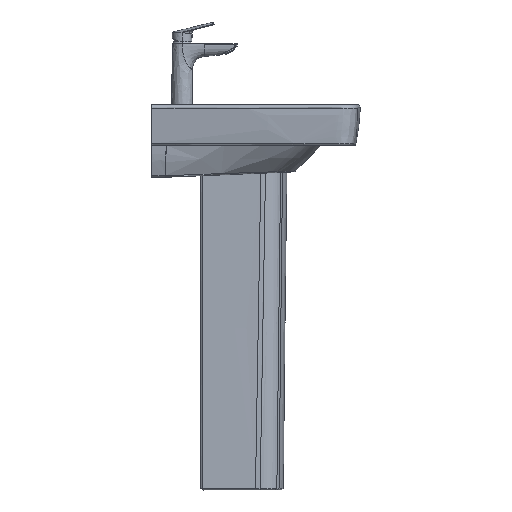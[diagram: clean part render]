
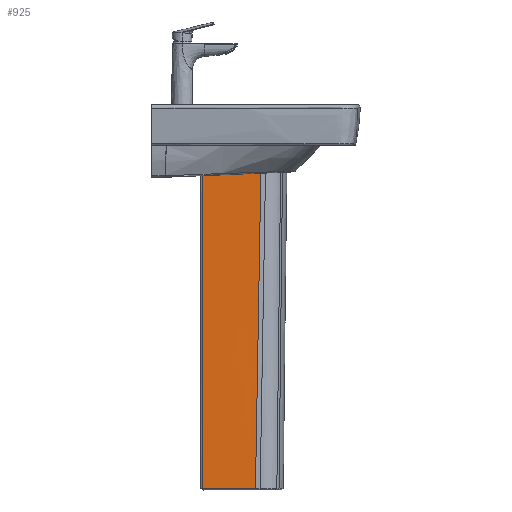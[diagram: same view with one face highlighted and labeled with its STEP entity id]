
A CAD part, left-side view. The second image highlights one B-rep face of the part: STEP entity #925.
In plain terms, the highlighted free-form (B-spline) face has degree [5, 5] with [9, 6] control points.
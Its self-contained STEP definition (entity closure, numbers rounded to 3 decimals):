
#287=B_SPLINE_SURFACE_WITH_KNOTS('',5,5,((#106246,#106247,#106248,#106249,
#106250,#106251),(#106252,#106253,#106254,#106255,#106256,#106257),(#106258,
#106259,#106260,#106261,#106262,#106263),(#106264,#106265,#106266,#106267,
#106268,#106269),(#106270,#106271,#106272,#106273,#106274,#106275),(#106276,
#106277,#106278,#106279,#106280,#106281),(#106282,#106283,#106284,#106285,
#106286,#106287),(#106288,#106289,#106290,#106291,#106292,#106293),(#106294,
#106295,#106296,#106297,#106298,#106299)),.UNSPECIFIED.,.F.,.F.,.F.,(6,
3,6),(6,6),(3.014,357.581,712.461),(-53.369,
76.24),.UNSPECIFIED.);
#925=ADVANCED_FACE('',(#1517),#287,.T.);
#1517=FACE_OUTER_BOUND('',#2137,.T.);
#2137=EDGE_LOOP('',(#4800,#4801,#4802,#4803));
#4800=ORIENTED_EDGE('',*,*,#6288,.T.);
#4801=ORIENTED_EDGE('',*,*,#6289,.F.);
#4802=ORIENTED_EDGE('',*,*,#6287,.T.);
#4803=ORIENTED_EDGE('',*,*,#6367,.T.);
#6287=EDGE_CURVE('',#8563,#8597,#7395,.T.);
#6288=EDGE_CURVE('',#8599,#8564,#7396,.T.);
#6289=EDGE_CURVE('',#8563,#8564,#7397,.T.);
#6367=EDGE_CURVE('',#8597,#8599,#7462,.T.);
#7395=B_SPLINE_CURVE_WITH_KNOTS('',5,(#108735,#108736,#108737,#108738,#108739,
#108740,#108741,#108742,#108743),.UNSPECIFIED.,.F.,.F.,(6,3,6),(-235.829,
-121.908,-56.39),.UNSPECIFIED.);
#7396=B_SPLINE_CURVE_WITH_KNOTS('',3,(#108744,#108745,#108746,#108747),
 .UNSPECIFIED.,.F.,.F.,(4,4),(0.,11.761),
 .UNSPECIFIED.);
#7397=B_SPLINE_CURVE_WITH_KNOTS('',5,(#108748,#108749,#108750,#108751,#108752,
#108753,#108754,#108755,#108756),.UNSPECIFIED.,.F.,.F.,(6,3,6),(3.014,
357.581,712.461),.UNSPECIFIED.);
#7462=B_SPLINE_CURVE_WITH_KNOTS('',3,(#109321,#109322,#109323,#109324,#109325,
#109326,#109327,#109328,#109329,#109330,#109331,#109332,#109333,#109334,
#109335,#109336,#109337,#109338),.UNSPECIFIED.,.F.,.F.,(4,2,2,2,2,2,2,2,
4),(204.347,329.724,455.101,580.479,705.856,
831.233,956.611,1081.988,1207.365),
 .UNSPECIFIED.);
#8563=VERTEX_POINT('',#107747);
#8564=VERTEX_POINT('',#107748);
#8597=VERTEX_POINT('',#107781);
#8599=VERTEX_POINT('',#107783);
#106246=CARTESIAN_POINT('',(-93.781,118.786,286.69));
#106247=CARTESIAN_POINT('',(-93.417,92.852,286.69));
#106248=CARTESIAN_POINT('',(-93.048,66.918,286.69));
#106249=CARTESIAN_POINT('',(-92.678,40.985,286.69));
#106250=CARTESIAN_POINT('',(-92.308,15.051,286.69));
#106251=CARTESIAN_POINT('',(-91.941,-10.883,286.69));
#106252=CARTESIAN_POINT('',(-93.288,119.974,215.791));
#106253=CARTESIAN_POINT('',(-93.058,94.04,215.79));
#106254=CARTESIAN_POINT('',(-92.714,68.107,215.79));
#106255=CARTESIAN_POINT('',(-92.32,42.174,215.792));
#106256=CARTESIAN_POINT('',(-91.941,16.241,215.793));
#106257=CARTESIAN_POINT('',(-91.641,-9.692,215.793));
#106258=CARTESIAN_POINT('',(-92.955,121.169,144.889));
#106259=CARTESIAN_POINT('',(-92.953,95.239,144.885));
#106260=CARTESIAN_POINT('',(-92.667,69.311,144.884));
#106261=CARTESIAN_POINT('',(-92.229,43.383,144.885));
#106262=CARTESIAN_POINT('',(-91.769,17.455,144.886));
#106263=CARTESIAN_POINT('',(-91.418,-8.475,144.885));
#106264=CARTESIAN_POINT('',(-91.686,122.363,73.998));
#106265=CARTESIAN_POINT('',(-91.325,96.439,73.999));
#106266=CARTESIAN_POINT('',(-90.786,70.517,74.003));
#106267=CARTESIAN_POINT('',(-90.209,44.596,74.009));
#106268=CARTESIAN_POINT('',(-89.734,18.674,74.013));
#106269=CARTESIAN_POINT('',(-89.501,-7.251,74.015));
#106270=CARTESIAN_POINT('',(-90.459,124.75,-67.863));
#106271=CARTESIAN_POINT('',(-90.214,98.833,-67.864));
#106272=CARTESIAN_POINT('',(-89.631,72.921,-67.861));
#106273=CARTESIAN_POINT('',(-88.912,47.011,-67.856));
#106274=CARTESIAN_POINT('',(-88.263,21.099,-67.852));
#106275=CARTESIAN_POINT('',(-87.889,-4.817,-67.851));
#106276=CARTESIAN_POINT('',(-88.647,127.138,-209.717));
#106277=CARTESIAN_POINT('',(-88.201,101.228,-209.716));
#106278=CARTESIAN_POINT('',(-87.505,75.324,-209.712));
#106279=CARTESIAN_POINT('',(-86.733,49.421,-209.707));
#106280=CARTESIAN_POINT('',(-86.055,23.518,-209.702));
#106281=CARTESIAN_POINT('',(-85.645,-2.39,-209.7));
#106282=CARTESIAN_POINT('',(-88.412,128.33,-280.684));
#106283=CARTESIAN_POINT('',(-88.304,102.422,-280.687));
#106284=CARTESIAN_POINT('',(-87.822,76.518,-280.689));
#106285=CARTESIAN_POINT('',(-87.139,50.616,-280.688));
#106286=CARTESIAN_POINT('',(-86.425,24.714,-280.687));
#106287=CARTESIAN_POINT('',(-85.852,-1.192,-280.688));
#106288=CARTESIAN_POINT('',(-87.266,129.522,-351.639));
#106289=CARTESIAN_POINT('',(-86.948,103.613,-351.64));
#106290=CARTESIAN_POINT('',(-86.445,77.708,-351.64));
#106291=CARTESIAN_POINT('',(-85.853,51.805,-351.638));
#106292=CARTESIAN_POINT('',(-85.269,25.902,-351.637));
#106293=CARTESIAN_POINT('',(-84.79,-0.003,-351.637));
#106294=CARTESIAN_POINT('',(-86.325,130.717,-422.597));
#106295=CARTESIAN_POINT('',(-85.957,104.811,-422.597));
#106296=CARTESIAN_POINT('',(-85.583,78.905,-422.597));
#106297=CARTESIAN_POINT('',(-85.206,52.999,-422.597));
#106298=CARTESIAN_POINT('',(-84.829,27.093,-422.597));
#106299=CARTESIAN_POINT('',(-84.456,1.187,-422.596));
#107747=CARTESIAN_POINT('',(-91.941,-10.883,286.69));
#107748=CARTESIAN_POINT('',(-84.456,1.187,-422.596));
#107781=CARTESIAN_POINT('',(-93.781,118.786,286.682));
#107783=CARTESIAN_POINT('',(-86.155,118.777,-422.597));
#108735=CARTESIAN_POINT('',(-91.941,-10.883,286.69));
#108736=CARTESIAN_POINT('',(-92.169,5.231,286.689));
#108737=CARTESIAN_POINT('',(-92.398,21.344,286.688));
#108738=CARTESIAN_POINT('',(-92.635,37.946,286.688));
#108739=CARTESIAN_POINT('',(-92.997,63.327,286.688));
#108740=CARTESIAN_POINT('',(-93.357,88.708,286.687));
#108741=CARTESIAN_POINT('',(-93.497,98.596,286.686));
#108742=CARTESIAN_POINT('',(-93.64,108.723,286.684));
#108743=CARTESIAN_POINT('',(-93.781,118.786,286.682));
#108744=CARTESIAN_POINT('',(-86.155,118.777,-422.597));
#108745=CARTESIAN_POINT('',(-85.596,79.58,-422.597));
#108746=CARTESIAN_POINT('',(-85.02,40.384,-422.596));
#108747=CARTESIAN_POINT('',(-84.456,1.187,-422.596));
#108748=CARTESIAN_POINT('',(-91.941,-10.883,286.69));
#108749=CARTESIAN_POINT('',(-91.641,-9.692,215.793));
#108750=CARTESIAN_POINT('',(-91.418,-8.475,144.884));
#108751=CARTESIAN_POINT('',(-89.501,-7.251,74.015));
#108752=CARTESIAN_POINT('',(-87.889,-4.817,-67.851));
#108753=CARTESIAN_POINT('',(-85.645,-2.39,-209.7));
#108754=CARTESIAN_POINT('',(-85.852,-1.192,-280.688));
#108755=CARTESIAN_POINT('',(-84.79,-0.003,-351.637));
#108756=CARTESIAN_POINT('',(-84.456,1.187,-422.596));
#109321=CARTESIAN_POINT('',(-93.781,118.786,286.682));
#109322=CARTESIAN_POINT('',(-93.569,118.792,257.137));
#109323=CARTESIAN_POINT('',(-93.379,118.799,227.589));
#109324=CARTESIAN_POINT('',(-92.877,118.804,168.493));
#109325=CARTESIAN_POINT('',(-92.57,118.802,138.946));
#109326=CARTESIAN_POINT('',(-91.896,118.795,79.854));
#109327=CARTESIAN_POINT('',(-91.537,118.79,50.3));
#109328=CARTESIAN_POINT('',(-90.862,118.784,-8.934));
#109329=CARTESIAN_POINT('',(-90.556,118.783,-38.558));
#109330=CARTESIAN_POINT('',(-89.905,118.779,-97.573));
#109331=CARTESIAN_POINT('',(-89.558,118.776,-127.134));
#109332=CARTESIAN_POINT('',(-88.937,118.776,-186.224));
#109333=CARTESIAN_POINT('',(-88.657,118.777,-215.751));
#109334=CARTESIAN_POINT('',(-88.067,118.781,-274.91));
#109335=CARTESIAN_POINT('',(-87.748,118.782,-304.575));
#109336=CARTESIAN_POINT('',(-86.995,118.78,-363.835));
#109337=CARTESIAN_POINT('',(-86.538,118.777,-394.496));
#109338=CARTESIAN_POINT('',(-86.155,118.777,-422.597));
